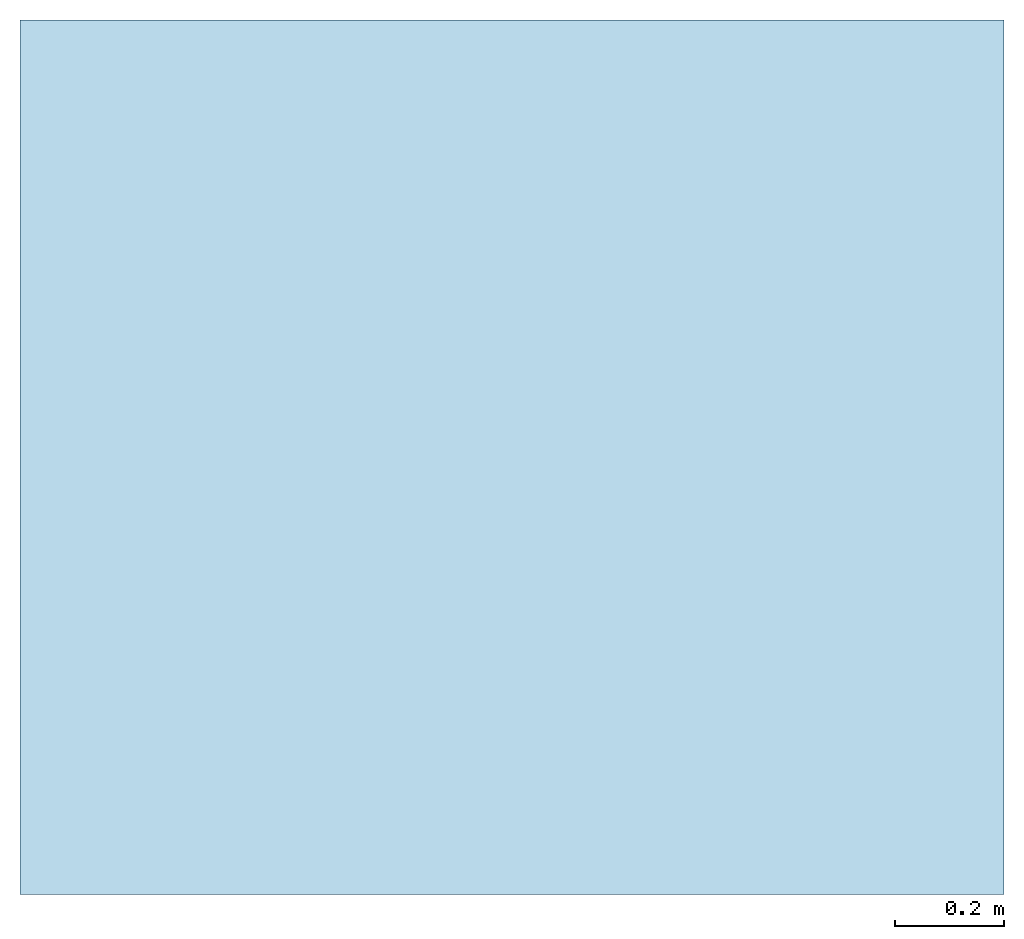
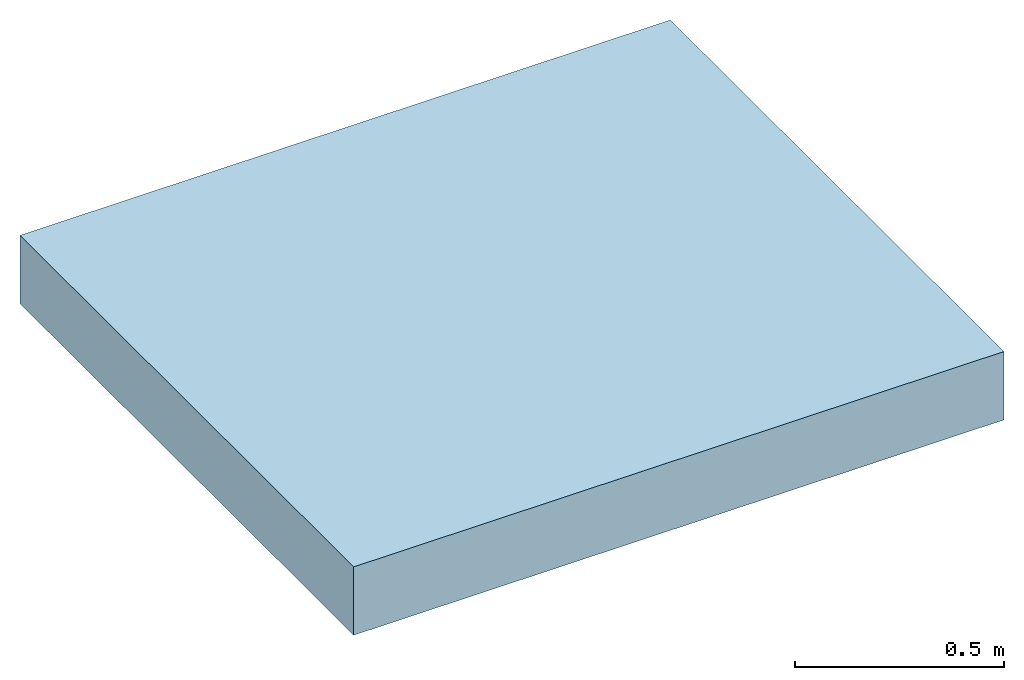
# One storey: 1 slab.
"""IFC2X3 building model written with IfcOpenShell, lengths in metres."""

from ifc_helpers import new_model, entity, si_unit, converted_unit, derived_unit, direction, frame, origin, origin_2d_with_axis, place, context, subcontext, project, spatial, rectangle, extrude, material, layer, layer_set, layer_usage, type_object, element, save


model = new_model("IFC2X3")

# Units and contexts
model_context = context("Model", 3, precision=1e-05, world=origin(), true_north=direction((6.12303176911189e-17, 1.0)))
body_context = subcontext(model_context, "Body", "Model", "MODEL_VIEW")
ifc_project = project(units=[si_unit("LENGTHUNIT", "METRE"), si_unit("AREAUNIT", "SQUARE_METRE"), si_unit("VOLUMEUNIT", "CUBIC_METRE"), converted_unit("PLANEANGLEUNIT", "DEGREE", entity("IfcRatioMeasure", 0.0174532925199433), si_unit("PLANEANGLEUNIT", "RADIAN"), dimensions=[0, 0, 0, 0, 0, 0, 0]), si_unit("MASSUNIT", "GRAM", prefix="KILO"), derived_unit("MASSDENSITYUNIT", [(si_unit("MASSUNIT", "GRAM", prefix="KILO"), 1), (si_unit("LENGTHUNIT", "METRE"), -3)]), si_unit("TIMEUNIT", "SECOND"), si_unit("FREQUENCYUNIT", "HERTZ"), si_unit("THERMODYNAMICTEMPERATUREUNIT", "DEGREE_CELSIUS"), derived_unit("THERMALTRANSMITTANCEUNIT", [(si_unit("MASSUNIT", "GRAM", prefix="KILO"), 1), (si_unit("THERMODYNAMICTEMPERATUREUNIT", "KELVIN"), -1), (si_unit("TIMEUNIT", "SECOND"), -3)]), derived_unit("VOLUMETRICFLOWRATEUNIT", [(si_unit("LENGTHUNIT", "METRE"), 3), (si_unit("TIMEUNIT", "SECOND"), -1)]), si_unit("ELECTRICCURRENTUNIT", "AMPERE"), si_unit("ELECTRICVOLTAGEUNIT", "VOLT"), si_unit("POWERUNIT", "WATT"), si_unit("FORCEUNIT", "NEWTON"), si_unit("ILLUMINANCEUNIT", "LUX"), si_unit("LUMINOUSFLUXUNIT", "LUMEN"), si_unit("LUMINOUSINTENSITYUNIT", "CANDELA"), derived_unit("USERDEFINED", [(si_unit("MASSUNIT", "GRAM", prefix="KILO"), -1), (si_unit("LENGTHUNIT", "METRE"), -2), (si_unit("TIMEUNIT", "SECOND"), 3), (si_unit("LUMINOUSFLUXUNIT", "LUMEN"), 1)]), derived_unit("LINEARVELOCITYUNIT", [(si_unit("LENGTHUNIT", "METRE"), 1), (si_unit("TIMEUNIT", "SECOND"), -1)]), si_unit("PRESSUREUNIT", "PASCAL"), derived_unit("USERDEFINED", [(si_unit("LENGTHUNIT", "METRE"), -2), (si_unit("MASSUNIT", "GRAM", prefix="KILO"), 1), (si_unit("TIMEUNIT", "SECOND"), -2)])], contexts=[model_context])

# Site, building, storey
site_placement = place(None, origin())
site = spatial("IfcSite", under=ifc_project, at=site_placement, Name="Default", CompositionType="ELEMENT")
building_placement = place(site_placement, origin())
building = spatial("IfcBuilding", under=site, at=building_placement, CompositionType="ELEMENT")
storey_placement = place(building_placement, frame((0.0, 0.0, 10.65)))
storey = spatial("IfcBuildingStorey", under=building, at=storey_placement, Name="01", CompositionType="ELEMENT", Elevation=10.65)

# Slab
ifc_material = material(Name="Sol par défaut")
ifc_layer = layer(ifc_material, 0.2)
ifc_layer_set = layer_set([ifc_layer], Name="Floor:Dalle BA ép.20")
ifc_layer_usage = layer_usage(ifc_layer_set, "AXIS3", "POSITIVE", 0.0)
slab_type = type_object("IfcSlabType", Name="Floor:Dalle BA ép.20", PredefinedType="FLOOR", material=ifc_layer_set)
slab_placement = place(storey_placement, origin())
element("IfcSlab", 1, at=slab_placement, inside=storey, type_object=slab_type, material=ifc_layer_usage, Name="Floor:Dalle BA ép.20", ObjectType="Floor:Dalle BA ép.20", PredefinedType="FLOOR", context=body_context, shape_type="SweptSolid", body=[
    extrude(rectangle(XDim=1.59999999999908, YDim=1.79999999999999, at=origin_2d_with_axis()), frame((46.8497436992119, -186.106488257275, 0.499999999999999), z_axis=(0.0, 0.0, -1.0), x_axis=(0.0, 1.0, 0.0)), (0.0, 0.0, 1.0), 0.2),
])

save(model, "model.ifc")
